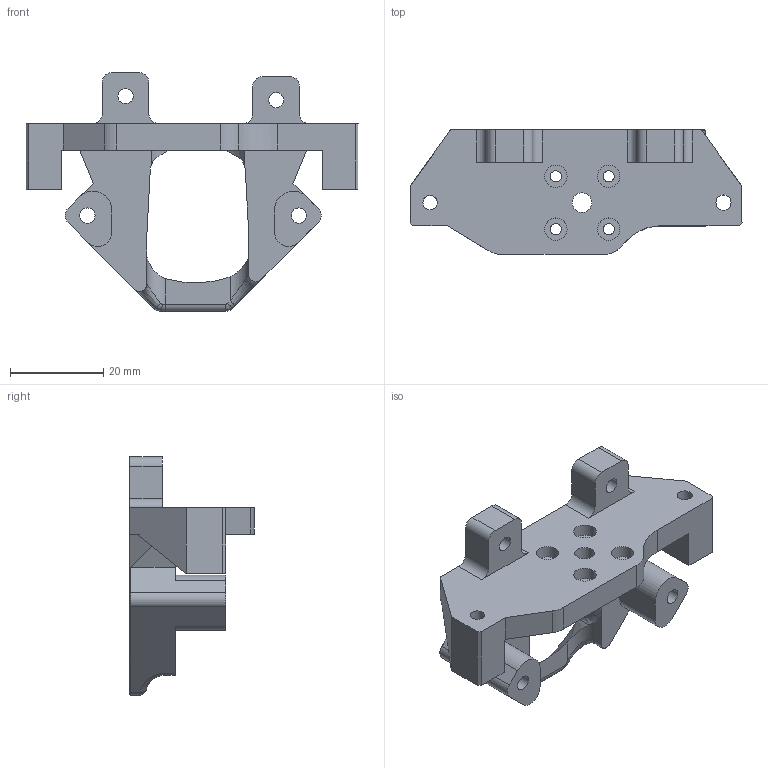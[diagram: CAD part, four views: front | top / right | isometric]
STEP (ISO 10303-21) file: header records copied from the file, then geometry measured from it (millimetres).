
FILE_DESCRIPTION(/* description */ (''),/* implementation_level */ '2;1');
FILE_NAME(/* name */ 'C:/Users/Martin/Documents/icarus-2.1/icarus-2-current-step-files/2-mounts/mount-tbg-lite-volcano-dragon-2.1.step',/* time_stamp */ '2022-08-22T19:23:00+02:00',/* author */ (''),/* organization */ (''),/* preprocessor_version */ 'ST-DEVELOPER v19',/* originating_system */ 'Autodesk Translation Framework v11.7.0.108',/* authorisation */ '');
FILE_SCHEMA (('AUTOMOTIVE_DESIGN { 1 0 10303 214 3 1 1 }'));
Length unit declared in the file: millimetre
Products named in the file (1): mount-rapido
Bounding box: 71.07 x 26.66 x 51.04 mm (x, y, z)
Volume: 17806 mm3; surface area: 9770 mm2
Topology: 1 solids, 1 shells, 132 faces, 357 edges, 230 vertices
Faces by surface type: plane 54, cylinder 43, bspline 26, cone 8, torus 1
Full cylindrical faces by diameter (mm): 2.4 x4, 3.1 x1, 3.25 x7, 4.2 x1, 4.8 x4
Entity records: 5079 total; most frequent: CARTESIAN_POINT 1785, ORIENTED_EDGE 714, DIRECTION 610, EDGE_CURVE 357, VERTEX_POINT 230, AXIS2_PLACEMENT_3D 205, LINE 200, VECTOR 200
